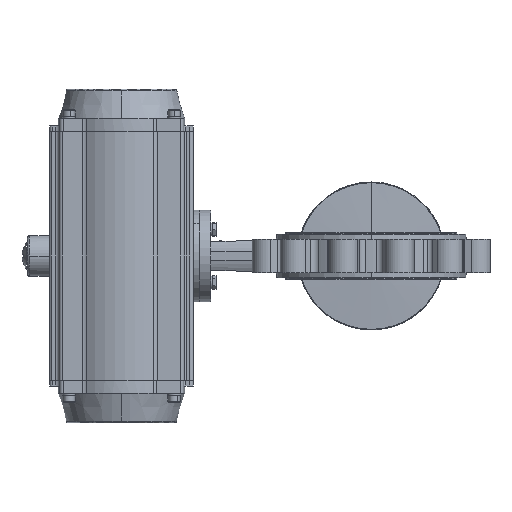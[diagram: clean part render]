
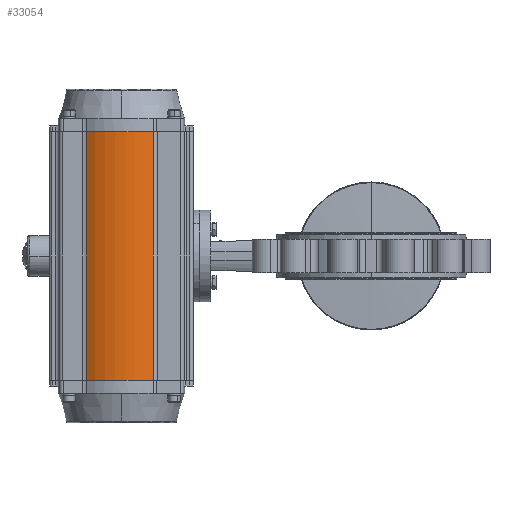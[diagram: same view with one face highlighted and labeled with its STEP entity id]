
A CAD part, left-side view. The second image highlights one B-rep face of the part: STEP entity #33054.
In plain terms, the highlighted cylindrical face has radius 87 mm (diameter 174 mm), a partial arc.
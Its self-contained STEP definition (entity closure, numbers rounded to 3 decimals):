
#2798 = EDGE_CURVE ( 'NONE', #4513, #24402, #20016, .T. ) ;
#3994 = LINE ( 'NONE', #19373, #56026 ) ;
#4513 = VERTEX_POINT ( 'NONE', #20330 ) ;
#4668 = VECTOR ( 'NONE', #11841, 1000. ) ;
#6223 = EDGE_CURVE ( 'NONE', #60843, #24402, #65323, .T. ) ;
#10852 = EDGE_CURVE ( 'NONE', #4513, #18752, #3994, .T. ) ;
#11647 = DIRECTION ( 'NONE',  ( 0., 0., 1. ) ) ;
#11841 = DIRECTION ( 'NONE',  ( 0., 0., 1. ) ) ;
#15747 = CARTESIAN_POINT ( 'NONE',  ( -75.34, 297.993, -170. ) ) ;
#16419 = ORIENTED_EDGE ( 'NONE', *, *, #52966, .T. ) ;
#16676 = AXIS2_PLACEMENT_3D ( 'NONE', #68753, #16693, #21572 ) ;
#16693 = DIRECTION ( 'NONE',  ( 0., 0., 1. ) ) ;
#18752 = VERTEX_POINT ( 'NONE', #66619 ) ;
#19373 = CARTESIAN_POINT ( 'NONE',  ( -72.649, 389.365, -170. ) ) ;
#20016 = CIRCLE ( 'NONE', #16676, 87. ) ;
#20330 = CARTESIAN_POINT ( 'NONE',  ( -72.649, 389.365, 170. ) ) ;
#21572 = DIRECTION ( 'NONE',  ( 1., 0., 0. ) ) ;
#23197 = AXIS2_PLACEMENT_3D ( 'NONE', #24955, #62093, #52631 ) ;
#24402 = VERTEX_POINT ( 'NONE', #39716 ) ;
#24806 = CIRCLE ( 'NONE', #28150, 87. ) ;
#24955 = CARTESIAN_POINT ( 'NONE',  ( 0., 341.5, -170. ) ) ;
#27559 = ORIENTED_EDGE ( 'NONE', *, *, #10852, .T. ) ;
#28150 = AXIS2_PLACEMENT_3D ( 'NONE', #33232, #11647, #50224 ) ;
#29898 = ORIENTED_EDGE ( 'NONE', *, *, #2798, .F. ) ;
#33054 = ADVANCED_FACE ( 'NONE', ( #55185 ), #56198, .T. ) ;
#33232 = CARTESIAN_POINT ( 'NONE',  ( 0., 341.5, -170. ) ) ;
#39716 = CARTESIAN_POINT ( 'NONE',  ( -75.34, 297.993, 170. ) ) ;
#43730 = EDGE_LOOP ( 'NONE', ( #29898, #27559, #16419, #62219 ) ) ;
#46429 = DIRECTION ( 'NONE',  ( 0., 0., -1. ) ) ;
#50081 = CARTESIAN_POINT ( 'NONE',  ( -75.34, 297.993, -613.224 ) ) ;
#50224 = DIRECTION ( 'NONE',  ( 1., 0., 0. ) ) ;
#52631 = DIRECTION ( 'NONE',  ( 1., 0., 0. ) ) ;
#52966 = EDGE_CURVE ( 'NONE', #18752, #60843, #24806, .T. ) ;
#55185 = FACE_OUTER_BOUND ( 'NONE', #43730, .T. ) ;
#56026 = VECTOR ( 'NONE', #46429, 1000. ) ;
#56198 = CYLINDRICAL_SURFACE ( 'NONE', #23197, 87. ) ;
#60843 = VERTEX_POINT ( 'NONE', #15747 ) ;
#62093 = DIRECTION ( 'NONE',  ( 0., 0., 1. ) ) ;
#62219 = ORIENTED_EDGE ( 'NONE', *, *, #6223, .T. ) ;
#65323 = LINE ( 'NONE', #50081, #4668 ) ;
#66619 = CARTESIAN_POINT ( 'NONE',  ( -72.649, 389.365, -170. ) ) ;
#68753 = CARTESIAN_POINT ( 'NONE',  ( 0., 341.5, 170. ) ) ;
